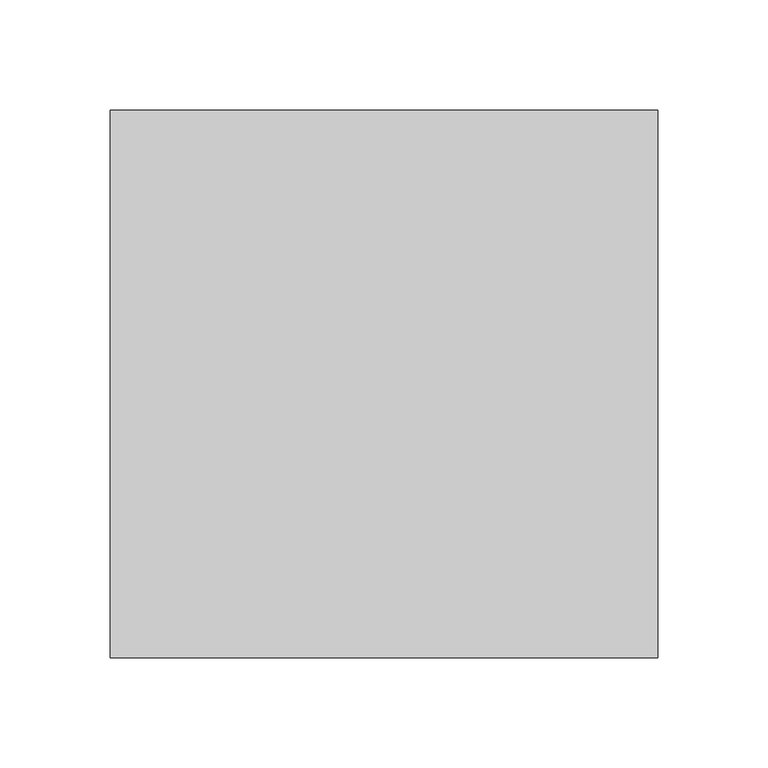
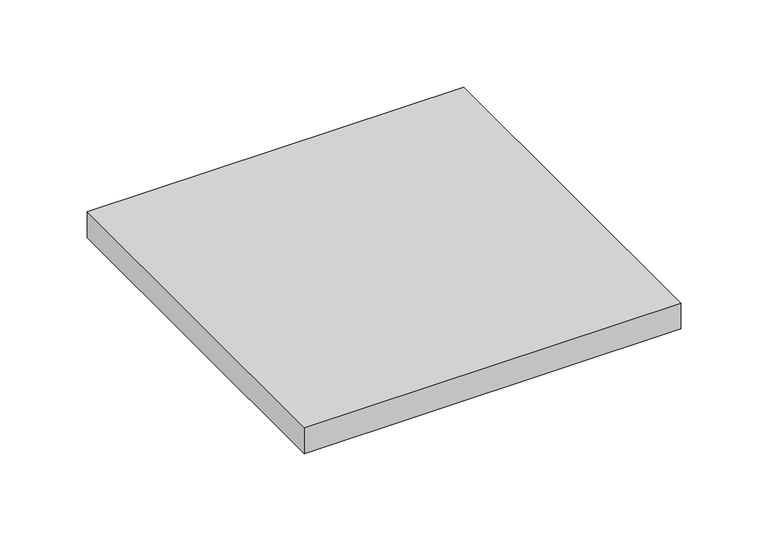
"""IFC4 building model written with IfcOpenShell, lengths in millimetres: proxy geometry, TECHNO_Решетка_KVU : Решетка рулонная деревянная / Светлое дерево."""

from ifc_helpers import new_model, si_unit, frame, origin, place, context, project, spatial, polyline, outline, extrude, source, transform, mapped, element, save


def mechanical_equipment_ec8b2621(model_context):
    return source(origin(), model_context, "Body", "SweptSolid", [
        extrude(outline(polyline([(123.8, 123.8), (123.8, -125.0), (-125.0, -125.0), (-125.0, 123.8), (123.8, 123.8)])), frame((0.0, 0.0, -18.1), z_axis=(0.0, 0.0, 1.0), x_axis=(1.0, 0.0, 0.0)), (0.0, 0.0, 1.0), 18.1),
    ])


if __name__ == "__main__":
    model = new_model("IFC4")
    model_context = context("Model", 3, world=origin())
    ifc_project = project(units=[si_unit("LENGTHUNIT", "METRE", prefix="MILLI")], contexts=[model_context])
    site = spatial("IfcSite", under=ifc_project)
    building = spatial("IfcBuilding", under=site)
    placement = place(None, origin())
    mechanical_equipment_shape = mechanical_equipment_ec8b2621(model_context)
    element("IfcBuildingElementProxy", 1, Name="TECHNO_Решетка_KVU : Решетка рулонная деревянная / Светлое дерево", ObjectType="TECHNO_Решетка_KVU : Решетка рулонная деревянная / Светлое дерево", at=placement, inside=building, context=model_context, shape_type="MappedRepresentation", body=[
        mapped(mechanical_equipment_shape, transform((0.0, 0.0, 0.0), x_axis=(1.0, 0.0, 0.0), y_axis=(0.0, 1.0, 0.0), z_axis=(0.0, 0.0, 1.0))),
    ])
    save(model, "model.ifc")
